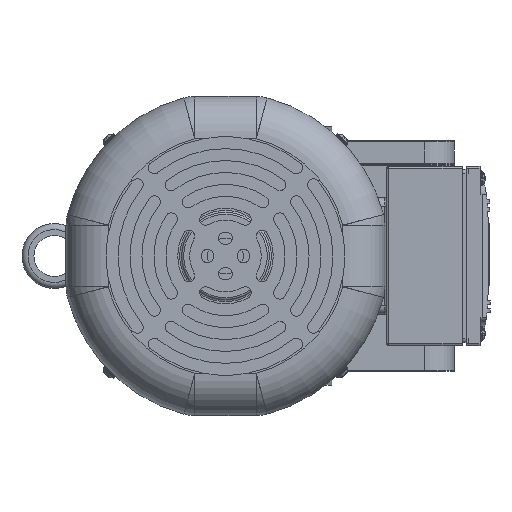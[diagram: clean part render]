
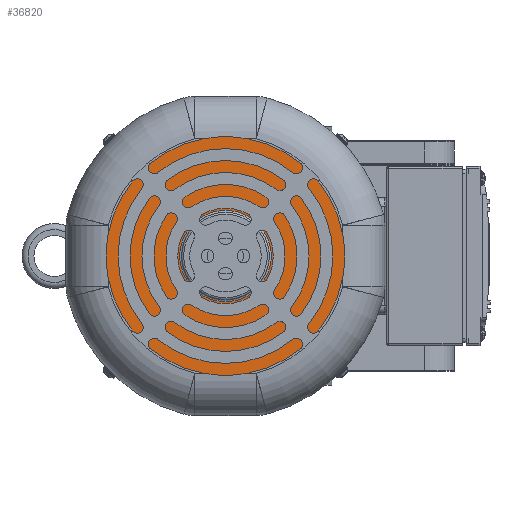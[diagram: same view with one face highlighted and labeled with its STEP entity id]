
A CAD part, left-side view. The second image highlights one B-rep face of the part: STEP entity #36820.
In plain terms, the highlighted planar face has unit normal (-1, 0, 0).
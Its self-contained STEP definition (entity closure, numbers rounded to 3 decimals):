
#6993=FACE_BOUND('',#9977,.T.);
#7747=FACE_OUTER_BOUND('',#9976,.T.);
#9976=EDGE_LOOP('',(#26280));
#9977=EDGE_LOOP('',(#26281));
#12310=CIRCLE('',#39762,63.);
#12316=CIRCLE('',#39770,23.);
#15111=VERTEX_POINT('',#58669);
#15116=VERTEX_POINT('',#58683);
#19143=EDGE_CURVE('',#15111,#15111,#12310,.T.);
#19150=EDGE_CURVE('',#15116,#15116,#12316,.T.);
#26280=ORIENTED_EDGE('',*,*,#19143,.F.);
#26281=ORIENTED_EDGE('',*,*,#19150,.F.);
#33800=PLANE('',#39769);
#36820=ADVANCED_FACE('',(#7747,#6993),#33800,.T.);
#39762=AXIS2_PLACEMENT_3D('',#58670,#46437,#46438);
#39769=AXIS2_PLACEMENT_3D('',#58682,#46452,#46453);
#39770=AXIS2_PLACEMENT_3D('',#58684,#46454,#46455);
#46437=DIRECTION('center_axis',(1.,0.,0.));
#46438=DIRECTION('ref_axis',(0.,-0.707,-0.707));
#46452=DIRECTION('center_axis',(-1.,0.,0.));
#46453=DIRECTION('ref_axis',(0.,-0.707,0.707));
#46454=DIRECTION('center_axis',(-1.,0.,0.));
#46455=DIRECTION('ref_axis',(0.,-0.707,-0.707));
#58669=CARTESIAN_POINT('',(-316.572,53.596,-44.548));
#58670=CARTESIAN_POINT('Origin',(-316.572,9.048,0.));
#58682=CARTESIAN_POINT('Origin',(-316.572,24.604,15.556));
#58683=CARTESIAN_POINT('',(-316.572,25.311,-16.263));
#58684=CARTESIAN_POINT('Origin',(-316.572,9.048,0.));
